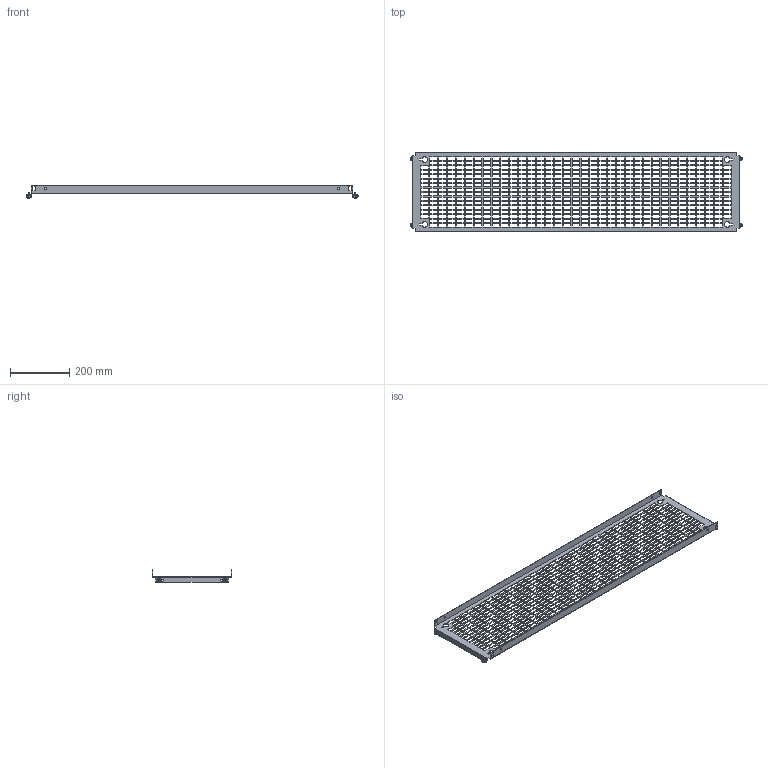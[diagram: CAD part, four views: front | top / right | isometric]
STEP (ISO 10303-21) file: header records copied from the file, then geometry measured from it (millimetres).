
FILE_DESCRIPTION(('Open CASCADE Model'),'2;1');
FILE_NAME('Open CASCADE Shape Model','2025-02-19T16:49:39',('Author'),( 'Open CASCADE'),'Open CASCADE STEP processor 7.8','Open CASCADE 7.8' ,'Unknown');
FILE_SCHEMA(('AUTOMOTIVE_DESIGN { 1 0 10303 214 1 1 1 1 }'));
Length unit declared in the file: millimetre
Products named in the file (4): Compound1; Solid1; Solid2; Solid3
Assembly tree (9 placements, depth 2):
  Compound1
    Solid1
    Solid2  x4
    Solid3  x4
Bounding box: 1119 x 269 x 42.59 mm (x, y, z)
Volume: 492157.3 mm3; surface area: 505283.4 mm2
Topology: 9 solids, 9 shells, 2561 faces, 7490 edges, 4958 vertices
Faces by surface type: plane 2390, cone 68, bspline 63, cylinder 28, torus 12
Full cylindrical faces by diameter (mm): 5 x4, 6 x8, 7 x12
Entity records: 82524 total; most frequent: CARTESIAN_POINT 15853, ORIENTED_EDGE 14302, DIRECTION 11882, EDGE_CURVE 7151, LINE 6970, VECTOR 6970, VERTEX_POINT 4760, FACE_BOUND 3559
